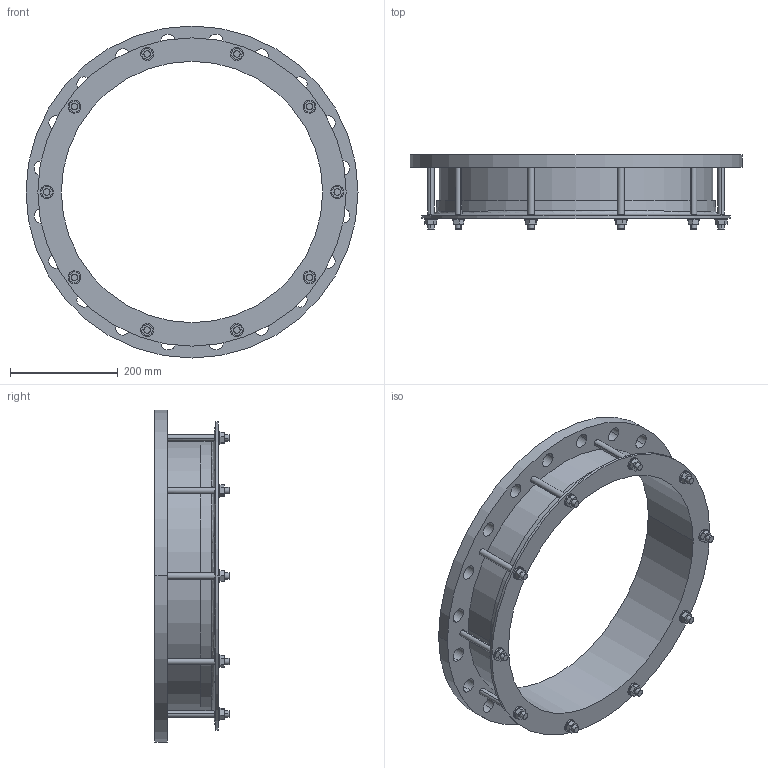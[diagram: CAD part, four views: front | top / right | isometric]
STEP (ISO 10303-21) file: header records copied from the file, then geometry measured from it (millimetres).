
FILE_DESCRIPTION((''),'2;1');
FILE_NAME('480X450PN10','2019-01-16T',('mfairey'),('Glynwed Pipe Systems'),'CREO PARAMETRIC BY PTC INC, 2016130','CREO PARAMETRIC BY PTC INC, 2016130','');
FILE_SCHEMA(('CONFIG_CONTROL_DESIGN'));
Length unit declared in the file: millimetre
Products named in the file (1): 480X450PN10
Bounding box: 615 x 137.45 x 615 mm (x, y, z)
Volume: 4716952.7 mm3; surface area: 758988.3 mm2
Topology: 1 solids, 1 shells, 208 faces, 548 edges, 364 vertices
Faces by surface type: cylinder 108, plane 94, cone 4, torus 2
Entity records: 7170 total; most frequent: CARTESIAN_POINT 1724, DIRECTION 1132, ORIENTED_EDGE 1096, EDGE_CURVE 548, AXIS2_PLACEMENT_3D 420, VERTEX_POINT 364, VECTOR 292, LINE 292
